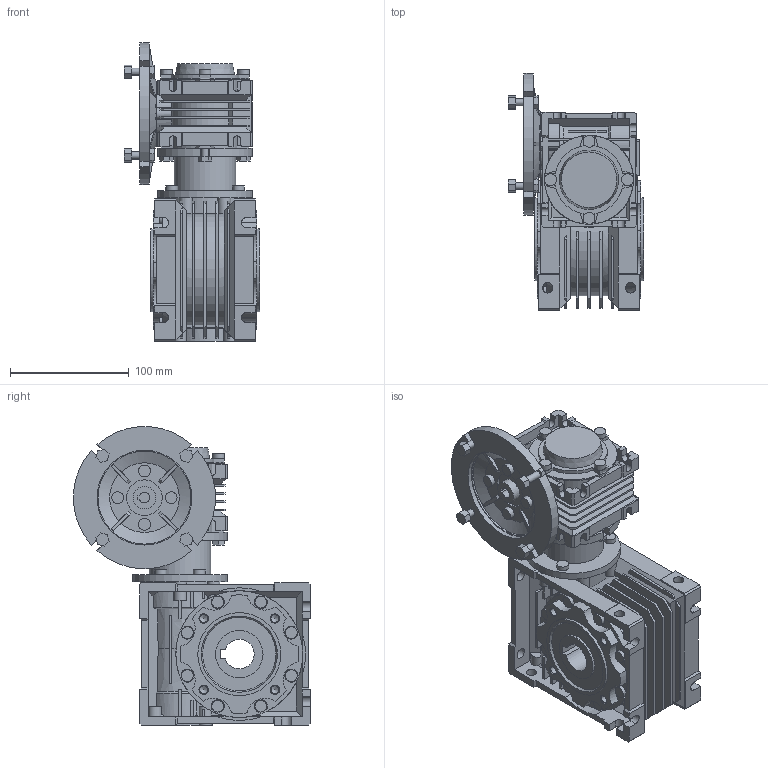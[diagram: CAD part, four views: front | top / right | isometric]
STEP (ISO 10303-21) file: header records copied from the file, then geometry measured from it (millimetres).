
FILE_DESCRIPTION(/* description */ ('STEP AP214'),/* implementation_level */ '2;1');
FILE_NAME(/* name */ 'NMRV-NMRV030-050100 (10x10)21125NO11NO00NO---(--------)',/* time_stamp */ '2024-10-22T10:26:33+02:00',/* author */ ('License CC BY-ND 4.0'),/* organization */ ('CADENAS'),/* preprocessor_version */ 'ST-DEVELOPER v19.3',/* originating_system */ 'PARTsolutions',/* authorisation */ ' ');
FILE_SCHEMA (('AUTOMOTIVE_DESIGN {1 0 10303 214 3 1 1}'));
Length unit declared in the file: millimetre
Products named in the file (13): NMRV-NMRV030-050100 (10x10)21125NO11NO00NO---(--------); 030-050100 (10x10)2114125No11No00NO---(--------)-d; 030-050100 (10x10)21125No11No00NO---d1; 030-050100 (10x10)21125No11No00T0561-d1; Gear unit 50; 050-25 (92)alc-n; VB 050-14 (14); Gear unit 30; 030-14 (63)alc-n; FT 030-050; Hollow shaft 30; VB 030-09 (9); 30-56 B5
Assembly tree (13 placements, depth 2):
  NMRV-NMRV030-050100 (10x10)21125NO11NO00NO---(--------)
    030-050100 (10x10)2114125No11No00NO---(--------)-d
    030-050100 (10x10)21125No11No00NO---d1
    030-050100 (10x10)21125No11No00T0561-d1  x2
    Gear unit 50
    050-25 (92)alc-n
    VB 050-14 (14)
    Gear unit 30
    030-14 (63)alc-n
    FT 030-050
    Hollow shaft 30
    VB 030-09 (9)
    30-56 B5
Bounding box: 114 x 199.8 x 251.8 mm (x, y, z)
Volume: 1549857.7 mm3; surface area: 365759.7 mm2
Topology: 9 solids, 21 shells, 1712 faces, 4534 edges, 2958 vertices
Faces by surface type: plane 1270, cylinder 348, cone 92, torus 2
Full cylindrical faces by diameter (mm): 3.545 x3, 3.775 x3, 4.65 x3, 4.917 x8, 5.55 x4, 6 x8, 6.647 x8, 8.8 x8, 10 x20, 16 x1, 19 x2, 24.8 x2, 28 x2, 30 x2, 34 x1, 37 x1, 38 x1, 40 x2, 47 x1, 52 x1, 55 x4, 70 x2, 75 x1, 78.5 x1, 80 x2, 107 x1
Entity records: 63948 total; most frequent: CARTESIAN_POINT 9691, ORIENTED_EDGE 8726, DIRECTION 8623, EDGE_CURVE 4363, LINE 3163, VECTOR 3163, VERTEX_POINT 2935, AXIS2_PLACEMENT_3D 2730
